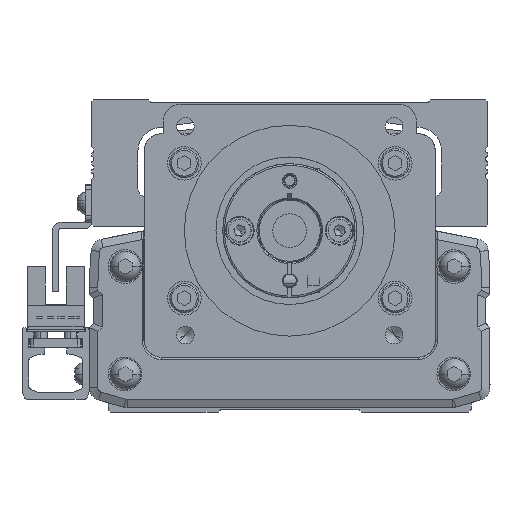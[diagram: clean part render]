
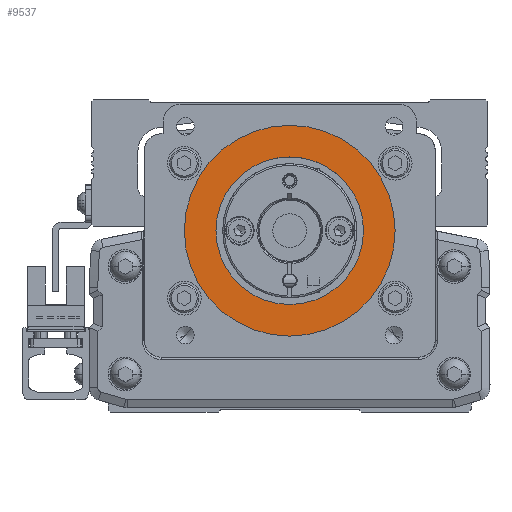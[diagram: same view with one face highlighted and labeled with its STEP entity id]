
A CAD part, front view. The second image highlights one B-rep face of the part: STEP entity #9537.
In plain terms, the highlighted planar face has unit normal (0, -1, 0).
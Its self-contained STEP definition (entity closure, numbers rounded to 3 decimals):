
#9537=ADVANCED_FACE('',(#19508,#19509),#19510,.T.);
#19508=FACE_BOUND('',#31737,.T.);
#19509=FACE_OUTER_BOUND('',#31738,.T.);
#19510=PLANE('',#31739);
#31737=EDGE_LOOP('',(#59535,#59536));
#31738=EDGE_LOOP('',(#59537,#59538));
#31739=AXIS2_PLACEMENT_3D('',#59539,#59540,#59541);
#59535=ORIENTED_EDGE('',*,*,#73679,.T.);
#59536=ORIENTED_EDGE('',*,*,#68122,.T.);
#59537=ORIENTED_EDGE('',*,*,#73843,.F.);
#59538=ORIENTED_EDGE('',*,*,#70506,.F.);
#59539=CARTESIAN_POINT('',(0.,64.222,0.));
#59540=DIRECTION('',(0.,-1.0,0.));
#59541=DIRECTION('',(1.0,0.,0.));
#68122=EDGE_CURVE('',#83386,#83388,#83390,.T.);
#70506=EDGE_CURVE('',#86785,#86783,#86787,.T.);
#73679=EDGE_CURVE('',#83388,#83386,#90592,.T.);
#73843=EDGE_CURVE('',#86783,#86785,#90764,.T.);
#83386=VERTEX_POINT('',#103879);
#83388=VERTEX_POINT('',#103882);
#83390=CIRCLE('',#103885,17.5);
#86783=VERTEX_POINT('',#108890);
#86785=VERTEX_POINT('',#108893);
#86787=CIRCLE('',#108896,25.0);
#90592=CIRCLE('',#114799,17.5);
#90764=CIRCLE('',#115071,25.0);
#103879=CARTESIAN_POINT('',(-17.5,64.222,0.));
#103882=CARTESIAN_POINT('',(17.5,64.222,0.));
#103885=AXIS2_PLACEMENT_3D('',#123029,#123030,#123031);
#108890=CARTESIAN_POINT('',(25.,64.222,0.));
#108893=CARTESIAN_POINT('',(-25.,64.222,0.));
#108896=AXIS2_PLACEMENT_3D('',#126149,#126150,#126151);
#114799=AXIS2_PLACEMENT_3D('',#129314,#129315,#129316);
#115071=AXIS2_PLACEMENT_3D('',#129428,#129429,#129430);
#123029=CARTESIAN_POINT('',(0.,64.222,0.));
#123030=DIRECTION('',(0.,1.0,0.));
#123031=DIRECTION('',(-1.0,0.,0.));
#126149=CARTESIAN_POINT('',(0.,64.222,0.));
#126150=DIRECTION('',(0.,1.0,0.));
#126151=DIRECTION('',(1.0,0.,0.));
#129314=CARTESIAN_POINT('',(0.,64.222,0.));
#129315=DIRECTION('',(0.,1.0,0.));
#129316=DIRECTION('',(-1.0,0.,0.));
#129428=CARTESIAN_POINT('',(0.,64.222,0.));
#129429=DIRECTION('',(0.,1.0,0.));
#129430=DIRECTION('',(1.0,0.,0.));
